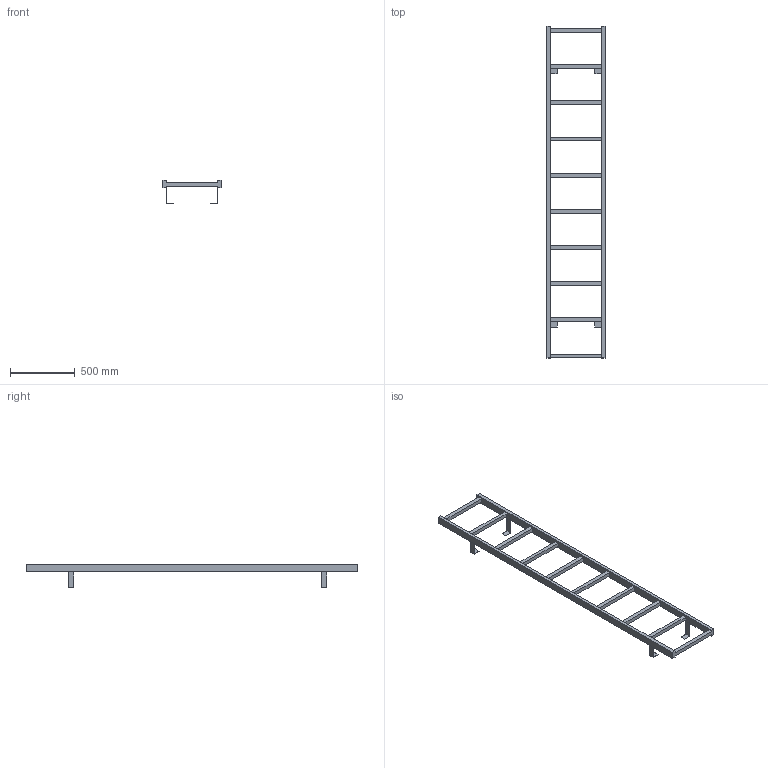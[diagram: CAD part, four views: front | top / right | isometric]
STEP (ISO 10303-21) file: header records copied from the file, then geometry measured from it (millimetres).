
FILE_DESCRIPTION((''),'2;1');
FILE_NAME('52311088','2024-10-17T13:08:40',('wep'),('HUBER SE'),'CREO PARAMETRIC BY PTC INC, 2022162','CREO PARAMETRIC BY PTC INC, 2022162','');
FILE_SCHEMA(('AUTOMOTIVE_DESIGN { 1 0 10303 214 1 1 1 1 }'));
Length unit declared in the file: millimetre
Products named in the file (1): 52311088
Bounding box: 450 x 2570 x 178.5 mm (x, y, z)
Volume: 10989460 mm3; surface area: 1370148 mm2
Topology: 1 solids, 1 shells, 82 faces, 240 edges, 156 vertices
Faces by surface type: plane 82
Entity records: 3253 total; most frequent: CARTESIAN_POINT 480, ORIENTED_EDGE 480, DIRECTION 404, VECTOR 240, LINE 240, EDGE_CURVE 240, VERTEX_POINT 156, COLOUR_RGB 106
